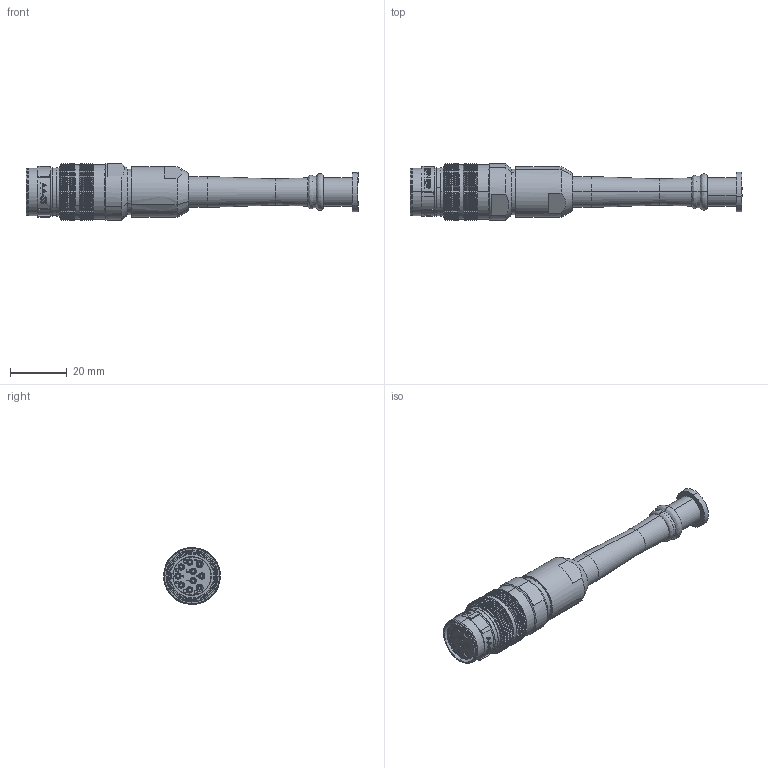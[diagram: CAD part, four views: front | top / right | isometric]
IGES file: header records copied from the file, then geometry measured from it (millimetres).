
Start section: SolidWorks IGES file using analytic representation for surfaces
Global section: file name: C:\Users\dmt\OneDrive - BERNIER CONNECT\Bureau\22111002.IGS; native system: SolidWorks 2021; preprocessor: SolidWorks 2021; author: DMT; date: 220314.143646; units: millimetre
Bounding box: 117.21 x 20 x 20 mm (x, y, z)
Volume: 18830.7 mm3; surface area: 7996.1 mm2
Topology: 1 solids, 1 shells, 5918 faces, 12551 edges, 6734 vertices
Faces by surface type: revolution 3357, plane 2450, bspline 111
